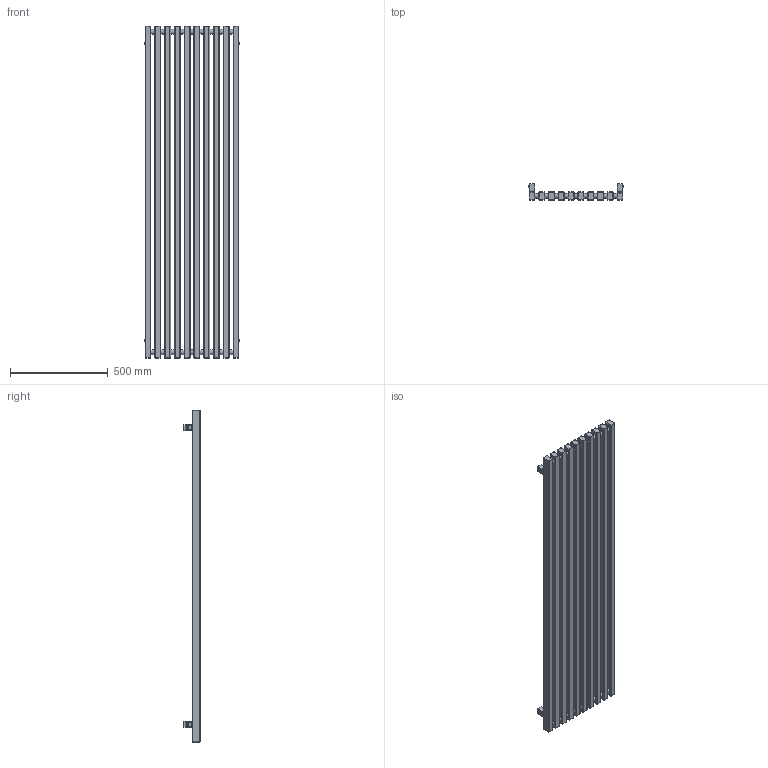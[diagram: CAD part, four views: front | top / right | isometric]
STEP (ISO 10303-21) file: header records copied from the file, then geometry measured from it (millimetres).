
FILE_DESCRIPTION((''),'2;1');
FILE_NAME('Z:\R\G\P\RGP029 - Grzejnik Triga ( ZET)\Work\Inventor\Triga v1.1\Marketing\AutoCad 3D\G-TR-XX-MK-XX-17-58-ZX.stp','2012-07-26T13:03:24',('DawPi'),(''),'Autodesk Inventor 2012','Autodesk Inventor 2012','');
FILE_SCHEMA(('AUTOMOTIVE_DESIGN { 1 0 10303 214 1 1 1 1 }'));
Length unit declared in the file: millimetre
Products named in the file (3): G-TR-XX-MK-XX-17-58-ZX; MMT42
Assembly tree (5 placements, depth 2):
  G-TR-XX-MK-XX-17-58-ZX
    G-TR-XX-MK-XX-17-58-ZX
    MMT42  x4
Bounding box: 486 x 82 x 1700 mm (x, y, z)
Volume: 20580249.1 mm3; surface area: 2357597.3 mm2
Topology: 5 solids, 5 shells, 485 faces, 1093 edges, 659 vertices
Faces by surface type: cylinder 197, plane 171, bspline 80, cone 24, torus 13
Full cylindrical faces by diameter (mm): 4.134 x4, 4.509 x4, 10 x4, 11.445 x1, 12 x4, 18.631 x2, 25 x18
Entity records: 15615 total; most frequent: CARTESIAN_POINT 7970, DIRECTION 1698, ORIENTED_EDGE 1452, EDGE_CURVE 726, AXIS2_PLACEMENT_3D 698, VERTEX_POINT 450, EDGE_LOOP 440, CIRCLE 420
